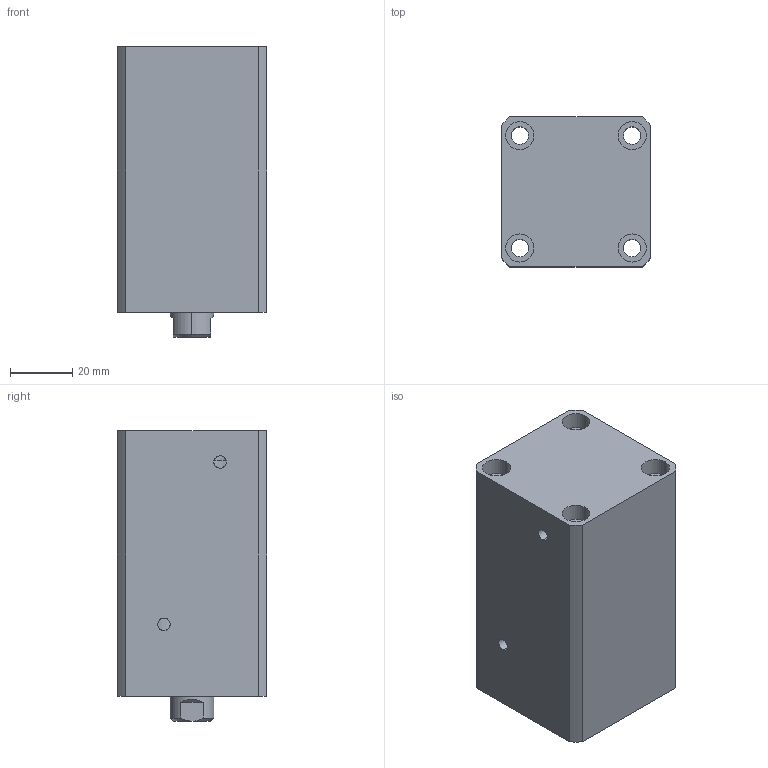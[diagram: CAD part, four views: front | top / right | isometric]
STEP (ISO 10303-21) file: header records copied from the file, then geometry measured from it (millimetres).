
FILE_DESCRIPTION (( 'STEP AP214' ), '1' );
FILE_NAME ('chtb-sdma25x40n_asm.STEP', '2018-05-22T07:05:49', ( 'Windows' ), ( 'Microsoft' ), 'SwSTEP 2.0', 'SolidWorks 2015', '' );
FILE_SCHEMA (( 'AUTOMOTIVE_DESIGN' ));
Length unit declared in the file: millimetre
Products named in the file (4): CHTB-SDMA25X40NHSG; CHTB-SDMA25X40NBT; CHTB-25QG; chtb-sdma25x40n_asm
Assembly tree (3 placements, depth 2):
  chtb-sdma25x40n_asm
    CHTB-25QG
    CHTB-SDMA25X40NBT
    CHTB-SDMA25X40NHSG
Bounding box: 48 x 48 x 93 mm (x, y, z)
Volume: 168723.2 mm3; surface area: 45442.3 mm2
Topology: 3 solids, 3 shells, 142 faces, 379 edges, 257 vertices
Faces by surface type: cylinder 89, plane 34, bspline 10, cone 9
Entity records: 8020 total; most frequent: CARTESIAN_POINT 4393, ORIENTED_EDGE 746, DIRECTION 661, EDGE_CURVE 373, AXIS2_PLACEMENT_3D 272, VERTEX_POINT 257, EDGE_LOOP 180, ADVANCED_FACE 142
